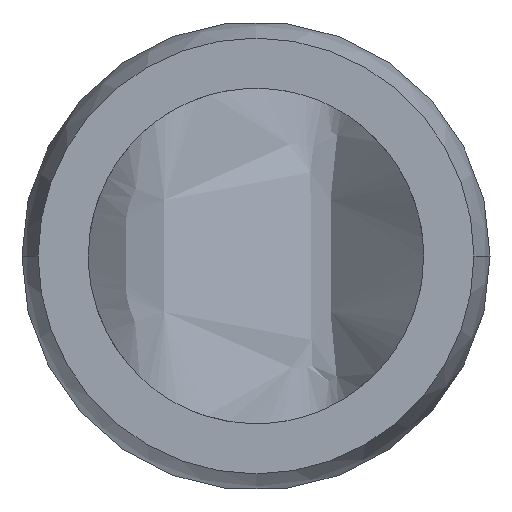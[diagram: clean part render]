
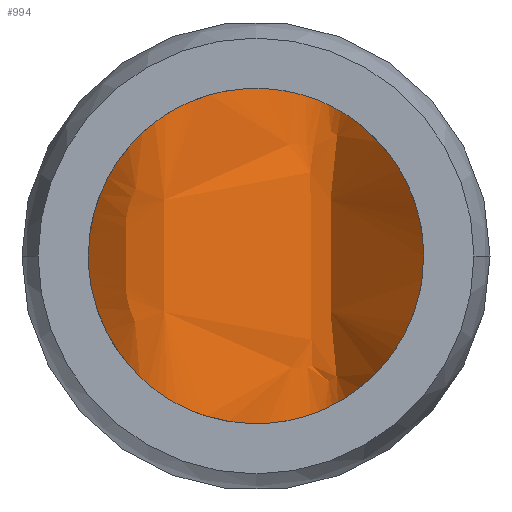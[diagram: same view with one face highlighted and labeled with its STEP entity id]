
A CAD part, left-side view. The second image highlights one B-rep face of the part: STEP entity #994.
In plain terms, the highlighted face is a extrusion surface.
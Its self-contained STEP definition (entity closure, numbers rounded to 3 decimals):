
#48=CARTESIAN_POINT('',(0.654,0.5,0.));
#49=CARTESIAN_POINT('',(0.654,0.5,0.024));
#50=CARTESIAN_POINT('',(0.651,0.496,0.072));
#51=CARTESIAN_POINT('',(0.638,0.481,0.142));
#52=CARTESIAN_POINT('',(0.62,0.458,0.204));
#53=CARTESIAN_POINT('',(0.6,0.43,0.257));
#54=CARTESIAN_POINT('',(0.582,0.4,0.301));
#55=CARTESIAN_POINT('',(0.568,0.37,0.337));
#56=CARTESIAN_POINT('',(0.557,0.34,0.368));
#57=CARTESIAN_POINT('',(0.552,0.306,0.396));
#58=CARTESIAN_POINT('',(0.552,0.27,0.422));
#59=CARTESIAN_POINT('',(0.562,0.233,0.443));
#60=CARTESIAN_POINT('',(0.577,0.195,0.461));
#61=CARTESIAN_POINT('',(0.598,0.159,0.475));
#62=CARTESIAN_POINT('',(0.623,0.121,0.486));
#63=CARTESIAN_POINT('',(0.65,0.083,0.494));
#64=CARTESIAN_POINT('',(0.678,0.047,0.498));
#65=CARTESIAN_POINT('',(0.704,0.013,0.5));
#66=CARTESIAN_POINT('',(0.727,-0.018,
0.5));
#67=CARTESIAN_POINT('',(0.747,-0.046,
0.498));
#68=CARTESIAN_POINT('',(0.764,-0.073,
0.495));
#69=CARTESIAN_POINT('',(0.777,-0.098,
0.491));
#70=CARTESIAN_POINT('',(0.787,-0.12,
0.485));
#71=CARTESIAN_POINT('',(0.795,-0.142,
0.48));
#72=CARTESIAN_POINT('',(0.799,-0.164,
0.473));
#73=CARTESIAN_POINT('',(0.801,-0.186,
0.464));
#74=CARTESIAN_POINT('',(0.798,-0.208,
0.455));
#75=CARTESIAN_POINT('',(0.791,-0.229,
0.444));
#76=CARTESIAN_POINT('',(0.781,-0.248,
0.434));
#77=CARTESIAN_POINT('',(0.769,-0.265,
0.424));
#78=CARTESIAN_POINT('',(0.755,-0.281,
0.413));
#79=CARTESIAN_POINT('',(0.739,-0.299,
0.401));
#80=CARTESIAN_POINT('',(0.72,-0.317,
0.387));
#81=CARTESIAN_POINT('',(0.698,-0.336,
0.37));
#82=CARTESIAN_POINT('',(0.673,-0.357,
0.351));
#83=CARTESIAN_POINT('',(0.648,-0.378,
0.328));
#84=CARTESIAN_POINT('',(0.623,-0.4,
0.301));
#85=CARTESIAN_POINT('',(0.599,-0.422,
0.269));
#86=CARTESIAN_POINT('',(0.58,-0.443,
0.233));
#87=CARTESIAN_POINT('',(0.566,-0.461,
0.196));
#88=CARTESIAN_POINT('',(0.556,-0.475,
0.158));
#89=CARTESIAN_POINT('',(0.55,-0.486,
0.12));
#90=CARTESIAN_POINT('',(0.546,-0.494,
0.08));
#91=CARTESIAN_POINT('',(0.544,-0.499,
0.04));
#92=CARTESIAN_POINT('',(0.544,-0.5,0.013));
#93=CARTESIAN_POINT('',(0.544,-0.5,0.));
#99=CARTESIAN_POINT('',(0.544,-0.5,0.));
#100=CARTESIAN_POINT('',(0.544,-0.5,-0.013));
#101=CARTESIAN_POINT('',(0.544,-0.499,
-0.04));
#102=CARTESIAN_POINT('',(0.546,-0.494,
-0.079));
#103=CARTESIAN_POINT('',(0.55,-0.486,
-0.118));
#104=CARTESIAN_POINT('',(0.556,-0.475,
-0.156));
#105=CARTESIAN_POINT('',(0.565,-0.462,
-0.193));
#106=CARTESIAN_POINT('',(0.578,-0.445,
-0.23));
#107=CARTESIAN_POINT('',(0.597,-0.424,
-0.266));
#108=CARTESIAN_POINT('',(0.621,-0.402,
-0.298));
#109=CARTESIAN_POINT('',(0.646,-0.38,
-0.326));
#110=CARTESIAN_POINT('',(0.672,-0.358,
-0.35));
#111=CARTESIAN_POINT('',(0.698,-0.336,
-0.37));
#112=CARTESIAN_POINT('',(0.721,-0.316,
-0.388));
#113=CARTESIAN_POINT('',(0.741,-0.297,
-0.402));
#114=CARTESIAN_POINT('',(0.757,-0.279,
-0.415));
#115=CARTESIAN_POINT('',(0.771,-0.262,
-0.426));
#116=CARTESIAN_POINT('',(0.783,-0.245,
-0.436));
#117=CARTESIAN_POINT('',(0.793,-0.226,
-0.446));
#118=CARTESIAN_POINT('',(0.799,-0.204,
-0.457));
#119=CARTESIAN_POINT('',(0.801,-0.182,
-0.466));
#120=CARTESIAN_POINT('',(0.799,-0.159,
-0.474));
#121=CARTESIAN_POINT('',(0.793,-0.137,
-0.481));
#122=CARTESIAN_POINT('',(0.785,-0.115,
-0.487));
#123=CARTESIAN_POINT('',(0.774,-0.092,
-0.492));
#124=CARTESIAN_POINT('',(0.76,-0.067,
-0.496));
#125=CARTESIAN_POINT('',(0.743,-0.041,
-0.499));
#126=CARTESIAN_POINT('',(0.723,-0.012,
-0.5));
#127=CARTESIAN_POINT('',(0.7,0.019,
-0.5));
#128=CARTESIAN_POINT('',(0.675,0.051,
-0.498));
#129=CARTESIAN_POINT('',(0.647,0.087,
-0.493));
#130=CARTESIAN_POINT('',(0.621,0.124,
-0.485));
#131=CARTESIAN_POINT('',(0.596,0.161,
-0.474));
#132=CARTESIAN_POINT('',(0.576,0.197,
-0.46));
#133=CARTESIAN_POINT('',(0.561,0.235,
-0.442));
#134=CARTESIAN_POINT('',(0.552,0.272,
-0.42));
#135=CARTESIAN_POINT('',(0.552,0.308,
-0.395));
#136=CARTESIAN_POINT('',(0.558,0.341,
-0.367));
#137=CARTESIAN_POINT('',(0.568,0.371,
-0.336));
#138=CARTESIAN_POINT('',(0.582,0.401,
-0.3));
#139=CARTESIAN_POINT('',(0.6,0.431,
-0.256));
#140=CARTESIAN_POINT('',(0.62,0.459,
-0.202));
#141=CARTESIAN_POINT('',(0.638,0.482,
-0.14));
#142=CARTESIAN_POINT('',(0.651,0.497,
-0.071));
#143=CARTESIAN_POINT('',(0.654,0.5,-0.024));
#144=CARTESIAN_POINT('',(0.654,0.5,0.));
#961=VERTEX_POINT('',#48);
#962=VERTEX_POINT('',#93);
#979=CARTESIAN_POINT('',(0.663,0.51,-2.954));
#980=CARTESIAN_POINT('',(0.595,0.434,-2.954));
#981=CARTESIAN_POINT('',(0.439,0.194,-2.954));
#982=CARTESIAN_POINT('',(1.033,-0.199,-2.954));
#983=CARTESIAN_POINT('',(0.569,-0.406,-2.954));
#984=CARTESIAN_POINT('',(0.541,-0.51,-2.954));
#986=DIRECTION('',(0.,0.,1.));
#987=VECTOR('',#986,1.);
#988=SURFACE_OF_LINEAR_EXTRUSION('',#985,#987);
#989=ORIENTED_EDGE('',*,*,#968,.T.);
#991=ORIENTED_EDGE('',*,*,#990,.T.);
#992=EDGE_LOOP('',(#989,#991));
#993=FACE_OUTER_BOUND('',#992,.F.);
#94=B_SPLINE_CURVE_WITH_KNOTS('',3,(#48,#49,#50,#51,#52,#53,#54,#55,#56,#57,#58,
#59,#60,#61,#62,#63,#64,#65,#66,#67,#68,#69,#70,#71,#72,#73,#74,#75,#76,#77,#78,
#79,#80,#81,#82,#83,#84,#85,#86,#87,#88,#89,#90,#91,#92,#93),.UNSPECIFIED.,.F.,
.F.,(4,1,1,1,1,1,1,1,1,1,1,1,1,1,1,1,1,1,1,1,1,1,1,1,1,1,1,1,1,1,1,1,1,1,1,1,1,
1,1,1,1,1,1,4),(0.,0.023,0.047,0.07,
0.093,0.116,0.14,0.163,
0.186,0.209,0.233,0.256,
0.279,0.302,0.326,0.349,
0.372,0.395,0.419,0.442,
0.465,0.488,0.512,0.535,
0.558,0.581,0.605,0.628,
0.651,0.674,0.698,0.721,
0.744,0.767,0.791,0.814,
0.837,0.86,0.884,0.907,
0.93,0.953,0.977,1.),.UNSPECIFIED.);
#145=B_SPLINE_CURVE_WITH_KNOTS('',3,(#99,#100,#101,#102,#103,#104,#105,#106,
#107,#108,#109,#110,#111,#112,#113,#114,#115,#116,#117,#118,#119,#120,#121,#122,
#123,#124,#125,#126,#127,#128,#129,#130,#131,#132,#133,#134,#135,#136,#137,#138,
#139,#140,#141,#142,#143,#144),.UNSPECIFIED.,.F.,.F.,(4,1,1,1,1,1,1,1,1,1,1,1,1,
1,1,1,1,1,1,1,1,1,1,1,1,1,1,1,1,1,1,1,1,1,1,1,1,1,1,1,1,1,1,4),(0.,
0.023,0.047,0.07,0.093,
0.116,0.14,0.163,0.186,
0.209,0.233,0.256,0.279,
0.302,0.326,0.349,0.372,
0.395,0.419,0.442,0.465,
0.488,0.512,0.535,0.558,
0.581,0.605,0.628,0.651,
0.674,0.698,0.721,0.744,
0.767,0.791,0.814,0.837,
0.86,0.884,0.907,0.93,
0.953,0.977,1.),.UNSPECIFIED.);
#968=EDGE_CURVE('',#961,#962,#94,.T.);
#985=B_SPLINE_CURVE_WITH_KNOTS('',3,(#979,#980,#981,#982,#983,#984),
.UNSPECIFIED.,.F.,.F.,(4,1,1,4),(0.,0.225,0.686,1.),
.UNSPECIFIED.);
#990=EDGE_CURVE('',#962,#961,#145,.T.);
#994=ADVANCED_FACE('',(#993),#988,.T.);
